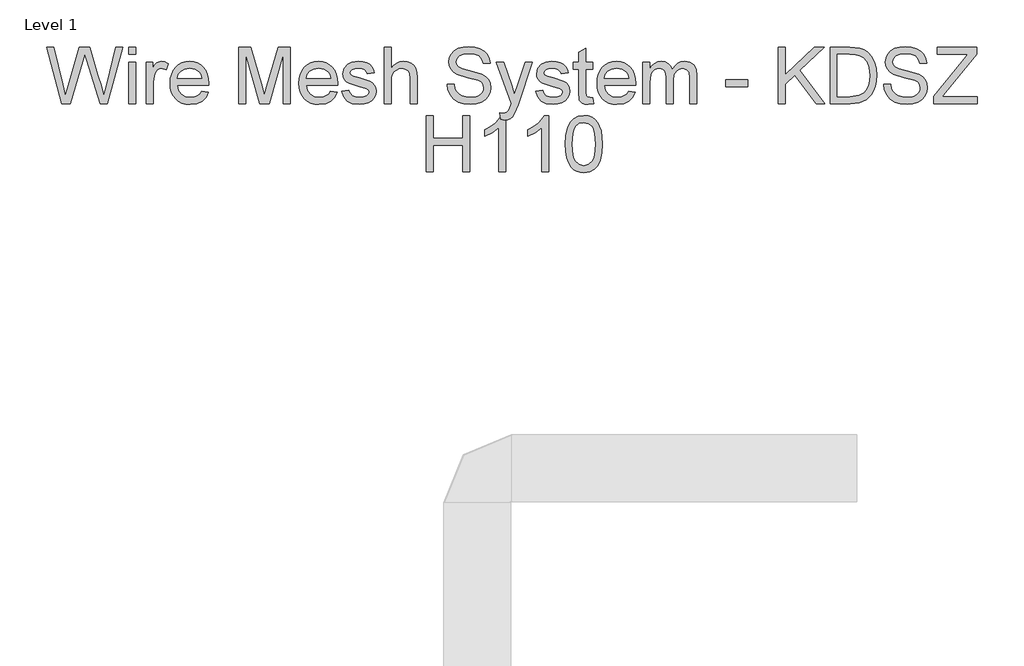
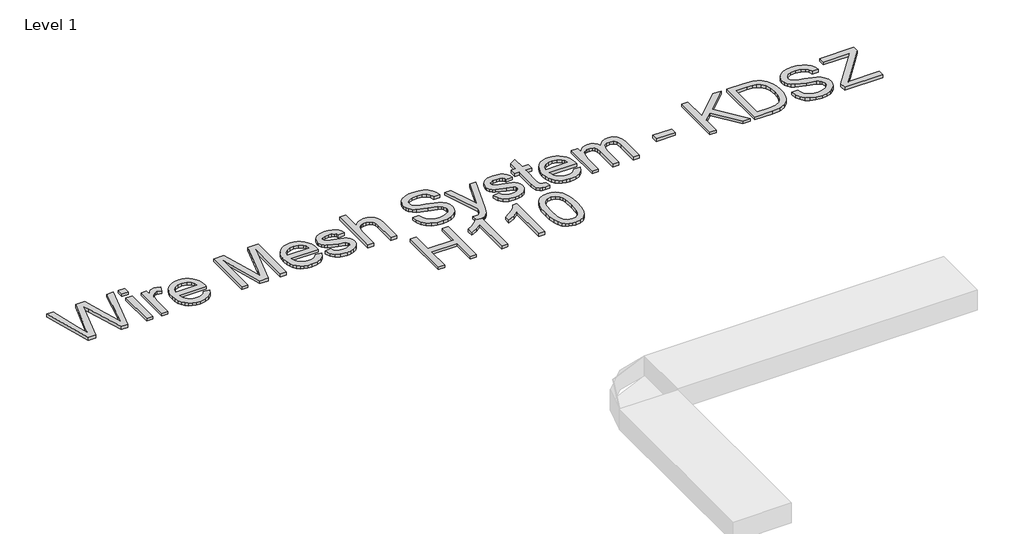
# One storey, part 17 of 32: 1 proxy.
"""IFC4 building model written with IfcOpenShell, lengths in millimetres."""

import ifcopenshell
import ifcopenshell.guid

model = None  # the IFC model being written
_history = None  # IfcOwnerHistory: only IFC2X3 demands one
_inside = {}  # id of a spatial element -> (the spatial element, [elements in it])
_under = {}  # id of a project, library or spatial element -> (it, [spatial elements below it])
_declared = {}  # id of a project -> (the project, [libraries it declares])
_typed = {}  # id of a type object -> (the type object, [elements of that type])
_made_of = {}  # id of a material, layer set ... -> (it, [elements and type objects made of it])


def new_model(schema):
    """Start an empty IFC model of exactly this schema.

    Asked for "IFC4X3", IfcOpenShell would pick the latest addendum, in which some entities
    have other attributes; the version numbers below select the first issue.
    IFC2X3 requires an IfcOwnerHistory on every rooted entity: one is made here for all.
    """
    global model, _history
    if schema == "IFC4X3":
        model = ifcopenshell.file(schema_version=(4, 3, 0, 0))
    else:
        model = ifcopenshell.file(schema=schema)
    _inside.clear()
    _under.clear()
    _declared.clear()
    _typed.clear()
    _made_of.clear()
    _history = None
    if model.schema == "IFC2X3":
        org = make("IfcOrganization", Name="unknown")
        user = make(
            "IfcPersonAndOrganization",
            ThePerson=make("IfcPerson", FamilyName="unknown"),
            TheOrganization=org,
        )
        app = make(
            "IfcApplication",
            ApplicationDeveloper=org,
            Version="unknown",
            ApplicationFullName="unknown",
            ApplicationIdentifier="unknown",
        )
        _history = make(
            "IfcOwnerHistory",
            OwningUser=user,
            OwningApplication=app,
            ChangeAction="ADDED",
            CreationDate=0,
        )
    return model


def make(cls, **values):
    """One entity of the class cls with the attributes given. An attribute that is None is left unset."""
    return model.create_entity(
        cls, **{name: value for name, value in values.items() if value is not None}
    )


def rooted(cls, **values):
    """An entity with a GlobalId (a new one), such as an element, a storey or a relation."""
    return make(cls, GlobalId=ifcopenshell.guid.new(), OwnerHistory=_history, **values)


def si_unit(unit_type, name, prefix=None):
    """IfcSIUnit, for example si_unit("LENGTHUNIT", "METRE", prefix="MILLI")."""
    return make("IfcSIUnit", UnitType=unit_type, Prefix=prefix, Name=name)


def assignment(units):
    """IfcUnitAssignment: the units of a project."""
    return None if units is None else make("IfcUnitAssignment", Units=units)


def point(xyz):
    """IfcCartesianPoint."""
    return None if xyz is None else make("IfcCartesianPoint", Coordinates=xyz)


def direction(xyz):
    """IfcDirection."""
    return None if xyz is None else make("IfcDirection", DirectionRatios=xyz)


def frame(location, z_axis=None, x_axis=None):
    """IfcAxis2Placement3D, a coordinate frame: its origin and axes. An axis left out is left unset."""
    return make(
        "IfcAxis2Placement3D",
        Location=point(location),
        Axis=direction(z_axis),
        RefDirection=direction(x_axis),
    )


def origin():
    """The frame at (0, 0, 0) with its axes left unset."""
    return frame((0.0, 0.0, 0.0))


def origin_with_axes():
    """The frame at (0, 0, 0) with the z axis (0, 0, 1) and the x axis (1, 0, 0) written out."""
    return frame((0.0, 0.0, 0.0), z_axis=(0.0, 0.0, 1.0), x_axis=(1.0, 0.0, 0.0))


def place(relative_to, where):
    """IfcLocalPlacement: puts the frame where relative to a parent placement (None: the world)."""
    return make(
        "IfcLocalPlacement", PlacementRelTo=relative_to, RelativePlacement=where
    )


def context(
    kind, dimensions, precision=None, world=None, true_north=None, identifier=None
):
    """IfcGeometricRepresentationContext, for example the 3D "Model" context."""
    return make(
        "IfcGeometricRepresentationContext",
        ContextIdentifier=identifier,
        ContextType=kind,
        CoordinateSpaceDimension=dimensions,
        Precision=precision,
        WorldCoordinateSystem=world,
        TrueNorth=true_north,
    )


def project(units=None, contexts=None):
    """IfcProject with its units and contexts."""
    return rooted(
        "IfcProject",
        Name="project",
        RepresentationContexts=contexts,
        UnitsInContext=assignment(units),
    )


def spatial(cls, under=None, at=None, **own):
    """A site, building, storey or space (cls), placed at a placement, below another one or the project."""
    s = rooted(cls, ObjectPlacement=at, **own)
    if under is not None:
        _under.setdefault(under.id(), (under, []))[1].append(s)
    return s


def polyline(points):
    """IfcPolyline through the points."""
    return make("IfcPolyline", Points=[point(p) for p in points])


def outline(outer, holes=None, kind="AREA"):
    """IfcArbitraryClosedProfileDef: a profile drawn as a closed curve; with holes, ...WithVoids."""
    if holes is None:
        return make("IfcArbitraryClosedProfileDef", ProfileType=kind, OuterCurve=outer)
    return make(
        "IfcArbitraryProfileDefWithVoids",
        ProfileType=kind,
        OuterCurve=outer,
        InnerCurves=holes,
    )


def extrude(swept, where, along, depth):
    """IfcExtrudedAreaSolid: the profile swept, set in the frame where, extruded along a direction by depth."""
    return make(
        "IfcExtrudedAreaSolid",
        SweptArea=swept,
        Position=where,
        ExtrudedDirection=direction(along),
        Depth=depth,
    )


def shape(context_of_items, identifier, shape_type, items):
    """IfcShapeRepresentation: the items that make up one representation, for example the "Body"."""
    return make(
        "IfcShapeRepresentation",
        ContextOfItems=context_of_items,
        RepresentationIdentifier=identifier,
        RepresentationType=shape_type,
        Items=items,
    )


def made_of(thing, what):
    """Note that an element or type object is made of a material, layer set ...; save() writes the relation."""
    if what is not None:
        _made_of.setdefault(what.id(), (what, []))[1].append(thing)
    return thing


def element(
    cls,
    number,
    at=None,
    inside=None,
    cuts=None,
    type_object=None,
    material=None,
    context=None,
    identifier="Body",
    shape_type=None,
    held_by="IfcProductDefinitionShape",
    body=None,
    shapes=None,
    **own,
):
    """One element of the class cls, such as IfcWall. Its Tag is "e" and its number.

    at: its placement. inside: the storey or other place that contains it. cuts: it is an
    opening in that element (IfcRelVoidsElement). A single representation is given by context,
    identifier, shape_type and body (its items); several are given by shapes. held_by: the class
    of the entity that holds the representations. save() writes the other relations.
    """
    e = rooted(cls, Tag="e%d" % number, ObjectPlacement=at, **own)
    if body is not None:
        shapes = [shape(context, identifier, shape_type, body)]
    if shapes is not None:
        e.Representation = make(held_by, Representations=shapes)
    if inside is not None:
        _inside.setdefault(inside.id(), (inside, []))[1].append(e)
    if cuts is not None:
        rooted(
            "IfcRelVoidsElement", RelatingBuildingElement=cuts, RelatedOpeningElement=e
        )
    if type_object is not None:
        _typed.setdefault(type_object.id(), (type_object, []))[1].append(e)
    return made_of(e, material)


def aggregate(whole, parts):
    """IfcRelAggregates: a whole, such as a stair, and the parts it consists of."""
    return rooted("IfcRelAggregates", RelatingObject=whole, RelatedObjects=parts)


def save(model, path):
    """Write the relations noted so far, then the file.

    IfcRelAggregates (storeys below a building ...), IfcRelContainedInSpatialStructure (elements
    in a storey), IfcRelDefinesByType, IfcRelAssociatesMaterial and IfcRelDeclares: one each for
    every whole, place, type object, material and project.
    """
    for whole, parts in _under.values():
        aggregate(whole, parts)
    for where, things in _inside.values():
        rooted(
            "IfcRelContainedInSpatialStructure",
            RelatedElements=things,
            RelatingStructure=where,
        )
    for kind, things in _typed.values():
        rooted("IfcRelDefinesByType", RelatedObjects=things, RelatingType=kind)
    for what, things in _made_of.values():
        rooted("IfcRelAssociatesMaterial", RelatedObjects=things, RelatingMaterial=what)
    for by, libraries in _declared.values():
        rooted("IfcRelDeclares", RelatingContext=by, RelatedDefinitions=libraries)
    model.write(path)


model = new_model("IFC4")

# Units and contexts
model_context = context("Model", 3, world=origin())
ifc_project = project(units=[si_unit("LENGTHUNIT", "METRE", prefix="MILLI")], contexts=[model_context])

# Site, building, storey
site = spatial("IfcSite", under=ifc_project)
building = spatial("IfcBuilding", under=site)
storey = spatial("IfcBuildingStorey", under=building, Name="Level 1", Elevation=0.0)

# Proxy
placement = place(None, origin())
element("IfcBuildingElementProxy", 1, Name="250mm Arial 3", ObjectType="250mm Arial 3", at=placement, inside=storey, context=model_context, shape_type="SweptSolid", body=[
    extrude(outline(polyline([(3710.2659596, 23403.1379564), (3641.7785948, 23654.2787318), (3674.1522104, 23654.2787318), (3713.8834659, 23489.2223433), (3726.146199, 23438.2706869), (3739.2673235, 23483.3362313), (3789.0540202, 23654.2787318), (3835.7137199, 23654.2787318), (3871.8887828, 23530.3638131), (3887.3858118, 23484.3785637), (3898.8054821, 23438.2706869), (3910.7003333, 23487.7508153), (3950.7994708, 23654.2787318), (3983.1730863, 23654.2787318), (3914.6244079, 23403.1379564), (3881.0858327, 23403.1379564), (3820.8758128, 23596.8891405), (3812.4758406, 23623.9284672), (3803.033536, 23591.3709106), (3748.1578051, 23403.1379564), (3710.2659596, 23403.1379564)])), origin_with_axes(), (0.0, 0.0, 1.0), 15.0),
    extrude(outline(polyline([(4010.6416086, 23622.8861348), (4010.6416086, 23654.2787318), (4042.0342056, 23654.2787318), (4042.0342056, 23622.8861348), (4010.6416086, 23622.8861348)])), origin_with_axes(), (0.0, 0.0, 1.0), 15.0),
    extrude(outline(polyline([(4010.6416086, 23403.1379564), (4010.6416086, 23587.5694633), (4042.0342056, 23587.5694633), (4042.0342056, 23403.1379564), (4010.6416086, 23403.1379564)])), origin_with_axes(), (0.0, 0.0, 1.0), 15.0),
    extrude(outline(polyline([(4089.1231009, 23403.1379564), (4089.1231009, 23587.5694633), (4116.5916233, 23587.5694633), (4116.5916233, 23560.284882), (4126.739035, 23576.1038078), (4136.089369, 23585.423485), (4155.7097421, 23591.4935379), (4171.3447269, 23589.0716481), (4187.2249663, 23581.8059787), (4176.7403295, 23553.6630061), (4154.6674098, 23560.100941), (4145.2940831, 23558.5527709), (4136.9171035, 23553.9082608), (4125.6047321, 23536.7404343), (4120.5156979, 23500.0748621), (4120.5156979, 23403.1379564), (4089.1231009, 23403.1379564)])), origin_with_axes(), (0.0, 0.0, 1.0), 15.0),
    extrude(outline(polyline([(4335.9719197, 23458.075001), (4366.75138, 23454.1509264), (4355.6612707, 23430.9590323), (4337.9646139, 23413.6225933), (4314.0599484, 23402.8160597), (4284.3458131, 23399.2138818), (4264.8672278, 23400.7678), (4247.5116283, 23405.4295547), (4232.2790144, 23413.1991458), (4219.1693862, 23424.0765733), (4208.6272678, 23437.759101), (4201.0971832, 23453.9439928), (4196.5791325, 23472.6312485), (4195.0731156, 23493.8208682), (4196.5944609, 23515.7290074), (4201.1584969, 23535.0389801), (4208.7652236, 23551.7507861), (4219.4146409, 23565.8644256), (4232.4897802, 23577.0771622), (4247.3736725, 23585.0862598), (4264.0663181, 23589.8917184), (4282.5677167, 23591.4935379), (4300.4732232, 23589.8955505), (4316.6657792, 23585.1015883), (4331.1453846, 23577.1116512), (4343.9120394, 23565.9257393), (4354.3334466, 23551.8427566), (4361.7773088, 23535.1616074), (4366.2436262, 23515.8822916), (4367.7323986, 23494.0048092), (4367.5484576, 23485.5435233), (4226.4657125, 23485.5435233), (4231.8996361, 23462.0450609), (4244.5225871, 23444.7699355), (4262.74041, 23434.1473429), (4284.9589497, 23430.6064787), (4301.6669237, 23432.2466193), (4315.73841, 23437.1670409), (4327.1734087, 23445.6743121), (4335.9719197, 23458.075001)]), holes=[polyline([(4226.4657125, 23516.9361202), (4336.3398017, 23516.9361202), (4332.0938303, 23533.5214669), (4323.7705002, 23545.3856612), (4305.4683709, 23556.4221211), (4282.4450894, 23560.100941), (4261.2842105, 23557.1655493), (4243.7868231, 23548.359374), (4231.6237246, 23534.632777), (4226.4657125, 23516.9361202)])]), origin_with_axes(), (0.0, 0.0, 1.0), 15.0),
    extrude(outline(polyline([(4501.1509355, 23403.1379564), (4501.1509355, 23654.2787318), (4555.1682752, 23654.2787318), (4606.5491272, 23477.2661784), (4616.9111367, 23440.2940379), (4628.1315375, 23480.3318617), (4678.6539982, 23654.2787318), (4732.6713378, 23654.2787318), (4732.6713378, 23403.1379564), (4701.2787409, 23403.1379564), (4701.2787409, 23622.8861348), (4638.1869788, 23403.1379564), (4595.6352946, 23403.1379564), (4532.5435325, 23622.8861348), (4532.5435325, 23403.1379564), (4501.1509355, 23403.1379564)])), origin_with_axes(), (0.0, 0.0, 1.0), 15.0),
    extrude(outline(polyline([(4912.8108882, 23458.075001), (4943.5903484, 23454.1509264), (4932.5002391, 23430.9590323), (4914.8035823, 23413.6225933), (4890.8989168, 23402.8160597), (4861.1847815, 23399.2138818), (4841.7061963, 23400.7678), (4824.3505967, 23405.4295547), (4809.1179829, 23413.1991458), (4796.0083547, 23424.0765733), (4785.4662363, 23437.759101), (4777.9361517, 23453.9439928), (4773.4181009, 23472.6312485), (4771.912084, 23493.8208682), (4773.4334293, 23515.7290074), (4777.9974653, 23535.0389801), (4785.604192, 23551.7507861), (4796.2536093, 23565.8644256), (4809.3287486, 23577.0771622), (4824.212641, 23585.0862598), (4840.9052865, 23589.8917184), (4859.4066852, 23591.4935379), (4877.3121917, 23589.8955505), (4893.5047476, 23585.1015883), (4907.984353, 23577.1116512), (4920.7510079, 23565.9257393), (4931.172415, 23551.8427566), (4938.6162773, 23535.1616074), (4943.0825946, 23515.8822916), (4944.5713671, 23494.0048092), (4944.3874261, 23485.5435233), (4803.3046809, 23485.5435233), (4808.7386046, 23462.0450609), (4821.3615555, 23444.7699355), (4839.5793785, 23434.1473429), (4861.7979182, 23430.6064787), (4878.5058921, 23432.2466193), (4892.5773784, 23437.1670409), (4904.0123771, 23445.6743121), (4912.8108882, 23458.075001)]), holes=[polyline([(4803.3046809, 23516.9361202), (4913.1787701, 23516.9361202), (4908.9327988, 23533.5214669), (4900.6094686, 23545.3856612), (4882.3073394, 23556.4221211), (4859.2840579, 23560.100941), (4838.1231789, 23557.1655493), (4820.6257915, 23548.359374), (4808.4626931, 23534.632777), (4803.3046809, 23516.9361202)])]), origin_with_axes(), (0.0, 0.0, 1.0), 15.0),
    extrude(outline(polyline([(4964.1917401, 23458.075001), (4995.5843371, 23461.9990756), (5000.5354156, 23448.5713828), (5010.1156759, 23438.6998826), (5024.3864316, 23432.6298297), (5043.4089964, 23430.6064787), (5062.201635, 23432.4612171), (5075.41473, 23438.0254323), (5083.2322224, 23446.0881793), (5085.8380532, 23455.4385134), (5083.216894, 23463.4399468), (5075.3534164, 23469.5406565), (5043.0411144, 23478.4924517), (4995.7682781, 23493.851525), (4983.804449, 23501.5693827), (4975.1362295, 23511.7857723), (4969.8709184, 23523.8492361), (4968.1158148, 23537.1083163), (4973.756672, 23560.4994798), (4989.1464021, 23578.3724134), (5009.1040004, 23587.6614338), (5036.1126702, 23591.4935379), (5056.5454493, 23589.9530321), (5074.311084, 23585.3315145), (5088.5971682, 23578.0811735), (5098.5912957, 23568.6541974), (5105.2131716, 23556.3531432), (5109.3825009, 23540.4805679), (5077.989904, 23536.5564933), (5074.0275083, 23546.4356577), (5066.1870233, 23553.8776039), (5054.3918068, 23558.5451067), (5038.5652168, 23560.100941), (5020.5389991, 23558.6140846), (5008.5215206, 23554.1535154), (5001.7616889, 23547.7155805), (4999.5084117, 23540.2966269), (5003.2485453, 23531.1608907), (5014.9594555, 23524.2324465), (5041.9987821, 23517.5492569), (5088.076002, 23502.7726634), (5100.2467647, 23495.7062634), (5109.4744714, 23486.0340326), (5115.2916055, 23473.7253142), (5117.2306501, 23458.7494513), (5114.9543803, 23443.2677507), (5108.1255708, 23428.7057551), (5097.0048046, 23416.2054314), (5081.8526649, 23406.9087468), (5063.5505357, 23401.137598), (5042.9798008, 23399.2138818), (5011.3266208, 23402.9233586), (4988.2266972, 23414.0517889), (4972.8063102, 23432.4765455), (4964.1917401, 23458.075001)])), origin_with_axes(), (0.0, 0.0, 1.0), 15.0),
    extrude(outline(polyline([(5152.5473217, 23403.1379564), (5152.5473217, 23654.2787318), (5183.9399186, 23654.2787318), (5183.9399186, 23561.940351), (5195.4707199, 23574.8698703), (5208.4193997, 23584.1052412), (5222.785958, 23589.6464637), (5238.5703949, 23591.4935379), (5257.531646, 23589.4778512), (5273.8257528, 23583.4307909), (5286.6556373, 23573.8275379), (5295.2242221, 23561.1432733), (5300.0526733, 23543.7148638), (5301.6621571, 23519.8791762), (5301.6621571, 23403.1379564), (5270.2695601, 23403.1379564), (5270.2695601, 23516.6295519), (5267.7710282, 23536.2805818), (5260.2754326, 23549.7389315), (5248.1966404, 23557.5104386), (5231.948519, 23560.100941), (5218.6817745, 23558.3535015), (5206.2274361, 23553.1111831), (5195.9114119, 23544.8798235), (5189.0596097, 23534.1652603), (5185.2198414, 23519.9251614), (5183.9399186, 23501.1171944), (5183.9399186, 23403.1379564), (5152.5473217, 23403.1379564)])), origin_with_axes(), (0.0, 0.0, 1.0), 15.0),
    extrude(outline(polyline([(5435.080694, 23489.4675979), (5466.4732909, 23489.4675979), (5470.0754688, 23472.0468526), (5476.5900458, 23458.0443442), (5486.7527859, 23446.9312422), (5501.2994531, 23438.1787164), (5519.0804162, 23432.4995381), (5538.9460439, 23430.6064787), (5556.4357671, 23432.0396856), (5571.7488552, 23436.3393065), (5584.1572083, 23443.1451234), (5592.9327267, 23452.0969186), (5598.1520525, 23462.3746218), (5599.8918278, 23473.1581628), (5594.6801662, 23492.7478791), (5586.7400465, 23500.4963936), (5573.3430105, 23507.0033064), (5527.6336726, 23518.990128), (5478.4294557, 23534.4718287), (5462.8021351, 23545.0331076), (5451.7273543, 23557.8323354), (5445.128471, 23572.5936004), (5442.9288432, 23589.0409913), (5445.6496371, 23607.4274268), (5453.8120189, 23624.5722607), (5467.2013907, 23639.1035995), (5485.6031546, 23649.64955), (5507.6914028, 23656.0644923), (5532.140227, 23658.2028064), (5558.6277307, 23655.9648576), (5581.8042964, 23649.2510112), (5600.8421896, 23638.1992229), (5614.9136759, 23622.9474485), (5623.8194859, 23604.4460498), (5627.3603501, 23583.6453887), (5595.9677532, 23583.6453887), (5590.2042686, 23602.3767136), (5578.1867901, 23615.8963769), (5559.4094799, 23624.0817513), (5533.3665003, 23626.8102095), (5506.7103841, 23624.1124082), (5488.4235833, 23616.0190043), (5477.8469759, 23604.1088247), (5474.3214401, 23589.9606963), (5476.819972, 23577.8972325), (5484.3155677, 23568.1943449), (5502.0352171, 23559.5184612), (5535.5737923, 23550.6586365), (5591.1239736, 23534.9010243), (5609.0198998, 23523.5120109), (5621.504895, 23509.455853), (5628.8395423, 23492.8858348), (5631.2844247, 23473.9552405), (5628.4716603, 23454.6031147), (5620.033367, 23436.4006201), (5606.3144343, 23420.7349785), (5587.6597515, 23408.9934115), (5565.226614, 23401.6587642), (5540.1723173, 23399.2138818), (5509.4158496, 23401.8503694), (5484.1009698, 23409.7598323), (5463.936438, 23422.9729273), (5448.6310141, 23441.5203112), (5438.8054992, 23464.1143971), (5435.080694, 23489.4675979)])), origin_with_axes(), (0.0, 0.0, 1.0), 15.0),
    extrude(outline(polyline([(5674.4492455, 23332.5046133), (5670.5251709, 23362.7322506), (5686.466724, 23359.9731356), (5701.3659448, 23363.4373577), (5710.501681, 23373.0942601), (5719.0855942, 23396.2095122), (5721.5381409, 23403.8124067), (5654.8288724, 23587.5694633), (5687.938252, 23587.5694633), (5723.3162372, 23485.1756413), (5735.640284, 23444.2181125), (5747.9643309, 23480.3931754), (5784.3233347, 23587.5694633), (5817.1874596, 23587.5694633), (5752.9920515, 23398.7233725), (5736.3147344, 23357.7658437), (5727.7768064, 23344.6907044), (5718.1045756, 23335.6316103), (5706.8688463, 23330.3433066), (5693.6404229, 23328.5805387), (5674.4492455, 23332.5046133)])), origin_with_axes(), (0.0, 0.0, 1.0), 15.0),
    extrude(outline(polyline([(5831.4122301, 23458.075001), (5862.804827, 23461.9990756), (5867.7559055, 23448.5713828), (5877.3361658, 23438.6998826), (5891.6069216, 23432.6298297), (5910.6294864, 23430.6064787), (5929.422125, 23432.4612171), (5942.63522, 23438.0254323), (5950.4527124, 23446.0881793), (5953.0585432, 23455.4385134), (5950.437384, 23463.4399468), (5942.5739063, 23469.5406565), (5910.2616044, 23478.4924517), (5862.988768, 23493.851525), (5851.024939, 23501.5693827), (5842.3567195, 23511.7857723), (5837.0914084, 23523.8492361), (5835.3363047, 23537.1083163), (5840.977162, 23560.4994798), (5856.3668921, 23578.3724134), (5876.3244904, 23587.6614338), (5903.3331602, 23591.4935379), (5923.7659393, 23589.9530321), (5941.531574, 23585.3315145), (5955.8176581, 23578.0811735), (5965.8117857, 23568.6541974), (5972.4336616, 23556.3531432), (5976.6029909, 23540.4805679), (5945.2103939, 23536.5564933), (5941.2479983, 23546.4356577), (5933.4075133, 23553.8776039), (5921.6122968, 23558.5451067), (5905.7857068, 23560.100941), (5887.759489, 23558.6140846), (5875.7420105, 23554.1535154), (5868.9821789, 23547.7155805), (5866.7289016, 23540.2966269), (5870.4690353, 23531.1608907), (5882.1799454, 23524.2324465), (5909.2192721, 23517.5492569), (5955.296492, 23502.7726634), (5967.4672547, 23495.7062634), (5976.6949614, 23486.0340326), (5982.5120954, 23473.7253142), (5984.4511401, 23458.7494513), (5982.1748703, 23443.2677507), (5975.3460607, 23428.7057551), (5964.2252946, 23416.2054314), (5949.0731549, 23406.9087468), (5930.7710256, 23401.137598), (5910.2002907, 23399.2138818), (5878.5471107, 23402.9233586), (5855.4471871, 23414.0517889), (5840.0268002, 23432.4765455), (5831.4122301, 23458.075001)])), origin_with_axes(), (0.0, 0.0, 1.0), 15.0),
    extrude(outline(polyline([(6086.4770801, 23429.3188917), (6090.4011547, 23402.2182514), (6066.9180207, 23399.2138818), (6051.8501873, 23400.5167972), (6040.614458, 23404.4255434), (6027.4933335, 23418.0984909), (6023.6918863, 23453.7217307), (6023.6918863, 23556.1768664), (6000.1474386, 23556.1768664), (6000.1474386, 23587.5694633), (6023.6918863, 23587.5694633), (6023.6918863, 23632.3897531), (6055.0844832, 23650.8451665), (6055.0844832, 23587.5694633), (6086.4770801, 23587.5694633), (6086.4770801, 23556.1768664), (6055.0844832, 23556.1768664), (6055.0844832, 23454.6414357), (6056.7399522, 23438.4546279), (6062.1048979, 23432.7218002), (6072.8041326, 23430.6064787), (6086.4770801, 23429.3188917)])), origin_with_axes(), (0.0, 0.0, 1.0), 15.0),
    extrude(outline(polyline([(6246.9962573, 23458.075001), (6277.7757176, 23454.1509264), (6266.6856083, 23430.9590323), (6248.9889515, 23413.6225933), (6225.084286, 23402.8160597), (6195.3701507, 23399.2138818), (6175.8915654, 23400.7678), (6158.5359659, 23405.4295547), (6143.303352, 23413.1991458), (6130.1937239, 23424.0765733), (6119.6516054, 23437.759101), (6112.1215208, 23453.9439928), (6107.6034701, 23472.6312485), (6106.0974532, 23493.8208682), (6107.6187985, 23515.7290074), (6112.1828345, 23535.0389801), (6119.7895612, 23551.7507861), (6130.4389785, 23565.8644256), (6143.5141178, 23577.0771622), (6158.3980102, 23585.0862598), (6175.0906557, 23589.8917184), (6193.5920544, 23591.4935379), (6211.4975608, 23589.8955505), (6227.6901168, 23585.1015883), (6242.1697222, 23577.1116512), (6254.9363771, 23565.9257393), (6265.3577842, 23551.8427566), (6272.8016464, 23535.1616074), (6277.2679638, 23515.8822916), (6278.7567362, 23494.0048092), (6278.5727952, 23485.5435233), (6137.4900501, 23485.5435233), (6142.9239737, 23462.0450609), (6155.5469247, 23444.7699355), (6173.7647477, 23434.1473429), (6195.9832873, 23430.6064787), (6212.6912613, 23432.2466193), (6226.7627476, 23437.1670409), (6238.1977463, 23445.6743121), (6246.9962573, 23458.075001)]), holes=[polyline([(6137.4900501, 23516.9361202), (6247.3641393, 23516.9361202), (6243.118168, 23533.5214669), (6234.7948378, 23545.3856612), (6216.4927086, 23556.4221211), (6193.469427, 23560.100941), (6172.3085481, 23557.1655493), (6154.8111607, 23548.359374), (6142.6480622, 23534.632777), (6137.4900501, 23516.9361202)])]), origin_with_axes(), (0.0, 0.0, 1.0), 15.0),
    extrude(outline(polyline([(6310.1493332, 23403.1379564), (6310.1493332, 23587.5694633), (6341.5419301, 23587.5694633), (6341.5419301, 23557.2191987), (6350.9842346, 23571.1603935), (6363.1243405, 23582.0818902), (6377.5483804, 23589.140626), (6393.8424871, 23591.4935379), (6411.3015534, 23589.0946407), (6425.2963977, 23581.8979492), (6435.7503777, 23570.3786442), (6442.5868514, 23555.0119067), (6454.0295143, 23570.9726204), (6467.0816609, 23582.3731301), (6481.7432913, 23589.213436), (6498.0144054, 23591.4935379), (6521.6125025, 23587.6997549), (6539.0639047, 23576.3184056), (6549.8474456, 23557.0429219), (6553.4419593, 23529.5667354), (6553.4419593, 23403.1379564), (6522.0493624, 23403.1379564), (6522.0493624, 23516.0777289), (6519.1369633, 23542.2893211), (6508.5910127, 23555.1958477), (6490.6567655, 23560.100941), (6473.6498874, 23556.9586156), (6459.7853347, 23547.5316395), (6450.5652922, 23531.1762191), (6447.4919447, 23507.248561), (6447.4919447, 23403.1379564), (6416.0993478, 23403.1379564), (6416.0993478, 23519.5726079), (6414.2829304, 23537.3229141), (6408.8336784, 23549.9841861), (6399.2457539, 23557.5717523), (6385.0133192, 23560.100941), (6372.9191986, 23558.4148152), (6361.7754398, 23553.3564378), (6352.5783899, 23545.048436), (6346.324396, 23533.6134374), (6341.5419301, 23496.1507875), (6341.5419301, 23403.1379564), (6310.1493332, 23403.1379564)])), origin_with_axes(), (0.0, 0.0, 1.0), 15.0),
    extrude(outline(polyline([(6682.9364216, 23477.6953741), (6682.9364216, 23509.087971), (6781.038287, 23509.087971), (6781.038287, 23477.6953741), (6682.9364216, 23477.6953741)])), origin_with_axes(), (0.0, 0.0, 1.0), 15.0),
    extrude(outline(polyline([(6918.3808985, 23403.1379564), (6918.3808985, 23654.2787318), (6949.7734954, 23654.2787318), (6949.7734954, 23531.3448317), (7078.5321938, 23654.2787318), (7122.4327785, 23654.2787318), (7014.3367856, 23551.0265185), (7126.3568531, 23403.1379564), (7087.9744983, 23403.1379564), (6992.0799249, 23529.8119901), (6949.7734954, 23489.4675979), (6949.7734954, 23403.1379564), (6918.3808985, 23403.1379564)])), origin_with_axes(), (0.0, 0.0, 1.0), 15.0),
    extrude(outline(polyline([(7149.9013008, 23403.1379564), (7149.9013008, 23654.2787318), (7236.5375107, 23654.2787318), (7281.3578004, 23650.6612255), (7301.3767123, 23643.686796), (7318.2686273, 23632.6963214), (7335.6357231, 23613.5664576), (7348.0057552, 23589.7767553), (7355.4093804, 23561.7870668), (7357.8772554, 23530.0572447), (7356.206458, 23503.1022244), (7351.1940658, 23479.3814999), (7343.5605144, 23459.1863112), (7334.0262394, 23442.8078982), (7311.0949284, 23420.0298713), (7281.0818889, 23407.429913), (7240.70684, 23403.1379564), (7149.9013008, 23403.1379564)]), holes=[polyline([(7181.2938977, 23434.5305533), (7236.844079, 23434.5305533), (7277.2497848, 23439.0677646), (7300.5489778, 23451.8823208), (7311.4551462, 23465.470962), (7319.6481848, 23483.0603198), (7324.7755401, 23504.7270365), (7326.4846585, 23530.5477541), (7323.1353995, 23564.7607796), (7313.0876225, 23590.0220099), (7298.2420512, 23607.3737774), (7280.4994091, 23617.8584142), (7262.4425345, 23621.6292047), (7235.9856877, 23622.8861348), (7181.2938977, 23622.8861348), (7181.2938977, 23434.5305533)])]), origin_with_axes(), (0.0, 0.0, 1.0), 15.0),
    extrude(outline(polyline([(7389.2698523, 23489.4675979), (7420.6624493, 23489.4675979), (7424.2646271, 23472.0468526), (7430.7792041, 23458.0443442), (7440.9419443, 23446.9312422), (7455.4886115, 23438.1787164), (7473.2695746, 23432.4995381), (7493.1352023, 23430.6064787), (7510.6249255, 23432.0396856), (7525.9380136, 23436.3393065), (7538.3463667, 23443.1451234), (7547.1218851, 23452.0969186), (7552.3412109, 23462.3746218), (7554.0809862, 23473.1581628), (7548.8693246, 23492.7478791), (7540.9292049, 23500.4963936), (7527.5321689, 23507.0033064), (7481.822831, 23518.990128), (7432.6186141, 23534.4718287), (7416.9912935, 23545.0331076), (7405.9165126, 23557.8323354), (7399.3176293, 23572.5936004), (7397.1180016, 23589.0409913), (7399.8387955, 23607.4274268), (7408.0011773, 23624.5722607), (7421.3905491, 23639.1035995), (7439.792313, 23649.64955), (7461.8805611, 23656.0644923), (7486.3293854, 23658.2028064), (7512.8168891, 23655.9648576), (7535.9934548, 23649.2510112), (7555.031348, 23638.1992229), (7569.1028343, 23622.9474485), (7578.0086443, 23604.4460498), (7581.5495085, 23583.6453887), (7550.1569116, 23583.6453887), (7544.393427, 23602.3767136), (7532.3759485, 23615.8963769), (7513.5986383, 23624.0817513), (7487.5556587, 23626.8102095), (7460.8995425, 23624.1124082), (7442.6127416, 23616.0190043), (7432.0361343, 23604.1088247), (7428.5105985, 23589.9606963), (7431.0091304, 23577.8972325), (7438.504726, 23568.1943449), (7456.2243755, 23559.5184612), (7489.7629507, 23550.6586365), (7545.313132, 23534.9010243), (7563.2090582, 23523.5120109), (7575.6940534, 23509.455853), (7583.0287007, 23492.8858348), (7585.4735831, 23473.9552405), (7582.6608187, 23454.6031147), (7574.2225254, 23436.4006201), (7560.5035927, 23420.7349785), (7541.8489098, 23408.9934115), (7519.4157724, 23401.6587642), (7494.3614756, 23399.2138818), (7463.605008, 23401.8503694), (7438.2901282, 23409.7598323), (7418.1255963, 23422.9729273), (7402.8201725, 23441.5203112), (7392.9946576, 23464.1143971), (7389.2698523, 23489.4675979)])), origin_with_axes(), (0.0, 0.0, 1.0), 15.0),
    extrude(outline(polyline([(7612.9421054, 23403.1379564), (7612.9421054, 23435.695513), (7741.3942354, 23592.9650659), (7765.7970744, 23622.8861348), (7628.6384039, 23622.8861348), (7628.6384039, 23654.2787318), (7805.2217616, 23654.2787318), (7805.2217616, 23622.8861348), (7664.6295257, 23450.7786748), (7651.3857739, 23434.5305533), (7809.1458362, 23434.5305533), (7809.1458362, 23403.1379564), (7612.9421054, 23403.1379564)])), origin_with_axes(), (0.0, 0.0, 1.0), 15.0),
    extrude(outline(polyline([(5340.9029032, 23098.2009118), (5340.9029032, 23349.3416872), (5372.2955001, 23349.3416872), (5372.2955001, 23247.3157472), (5505.714037, 23247.3157472), (5505.714037, 23349.3416872), (5537.106634, 23349.3416872), (5537.106634, 23098.2009118), (5505.714037, 23098.2009118), (5505.714037, 23215.9231502), (5372.2955001, 23215.9231502), (5372.2955001, 23098.2009118), (5340.9029032, 23098.2009118)])), origin_with_axes(), (0.0, 0.0, 1.0), 15.0),
    extrude(outline(polyline([(5697.9936932, 23098.2009118), (5666.6010963, 23098.2009118), (5666.6010963, 23293.9141332), (5636.8639683, 23272.7302617), (5603.8159024, 23256.880679), (5603.8159024, 23286.5564933), (5628.4716603, 23299.9688577), (5649.8318087, 23315.9257393), (5666.6700741, 23332.8942963), (5677.7601835, 23349.3416872), (5697.9936932, 23349.3416872), (5697.9936932, 23098.2009118)])), origin_with_axes(), (0.0, 0.0, 1.0), 15.0),
    extrude(outline(polyline([(5890.2733493, 23098.2009118), (5858.8807524, 23098.2009118), (5858.8807524, 23293.9141332), (5829.1436245, 23272.7302617), (5796.0955586, 23256.880679), (5796.0955586, 23286.5564933), (5820.7513165, 23299.9688577), (5842.1114648, 23315.9257393), (5858.9497303, 23332.8942963), (5870.0398396, 23349.3416872), (5890.2733493, 23349.3416872), (5890.2733493, 23098.2009118)])), origin_with_axes(), (0.0, 0.0, 1.0), 15.0),
    extrude(outline(polyline([(5964.830767, 23221.7479485), (5967.1376937, 23261.9467207), (5974.0584737, 23294.0061037), (5985.5241293, 23318.4166069), (6001.4656824, 23335.6687397), (6021.9980962, 23345.9234503), (6047.2363339, 23349.3416872), (6066.5807955, 23347.3183362), (6083.9019061, 23341.2482833), (6098.3872597, 23331.3691189), (6109.2244501, 23317.9184334), (6123.9397299, 23280.7623519), (6128.2163581, 23255.0489333), (6129.6419009, 23221.7479485), (6127.3579668, 23181.7791026), (6120.5061647, 23149.7963616), (6109.109487, 23125.3628658), (6093.1909265, 23108.0417552), (6072.6125274, 23097.7180667), (6047.2363339, 23094.2768372), (6029.9458802, 23095.7713578), (6014.6174637, 23100.2549196), (6001.2510845, 23107.7275226), (5989.8467427, 23118.1891669), (5978.9022533, 23137.1006007), (5971.0847609, 23160.6642089), (5966.3942655, 23188.8799915), (5964.830767, 23221.7479485)]), holes=[polyline([(5996.2233639, 23221.8092622), (5999.9021839, 23172.4287685), (6004.5007088, 23155.5387696), (6010.9386438, 23143.848936), (6027.3707062, 23130.2143096), (6047.2363339, 23125.6694341), (6067.1019617, 23130.229638), (6083.5340241, 23143.9102497), (6089.9719591, 23155.6192438), (6094.570484, 23172.5054106), (6098.2493039, 23221.8092622), (6094.6931113, 23270.0784456), (6090.2478705, 23286.912879), (6084.0245335, 23298.8805402), (6067.6231278, 23313.1819527), (6046.8684519, 23317.9490902), (6027.217422, 23313.7491041), (6011.4291531, 23301.1491458), (6004.7766203, 23288.1199918), (6000.0248112, 23270.5536265), (5996.2233639, 23221.8092622)])]), origin_with_axes(), (0.0, 0.0, 1.0), 15.0),
])

save(model, "model.ifc")
